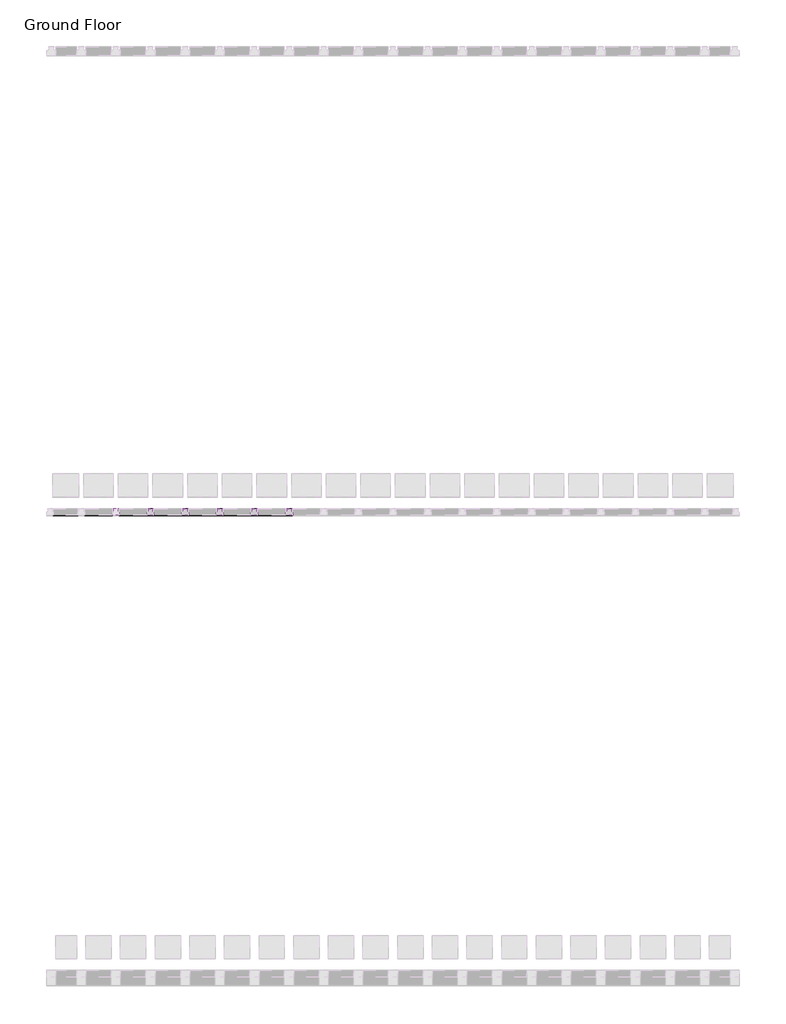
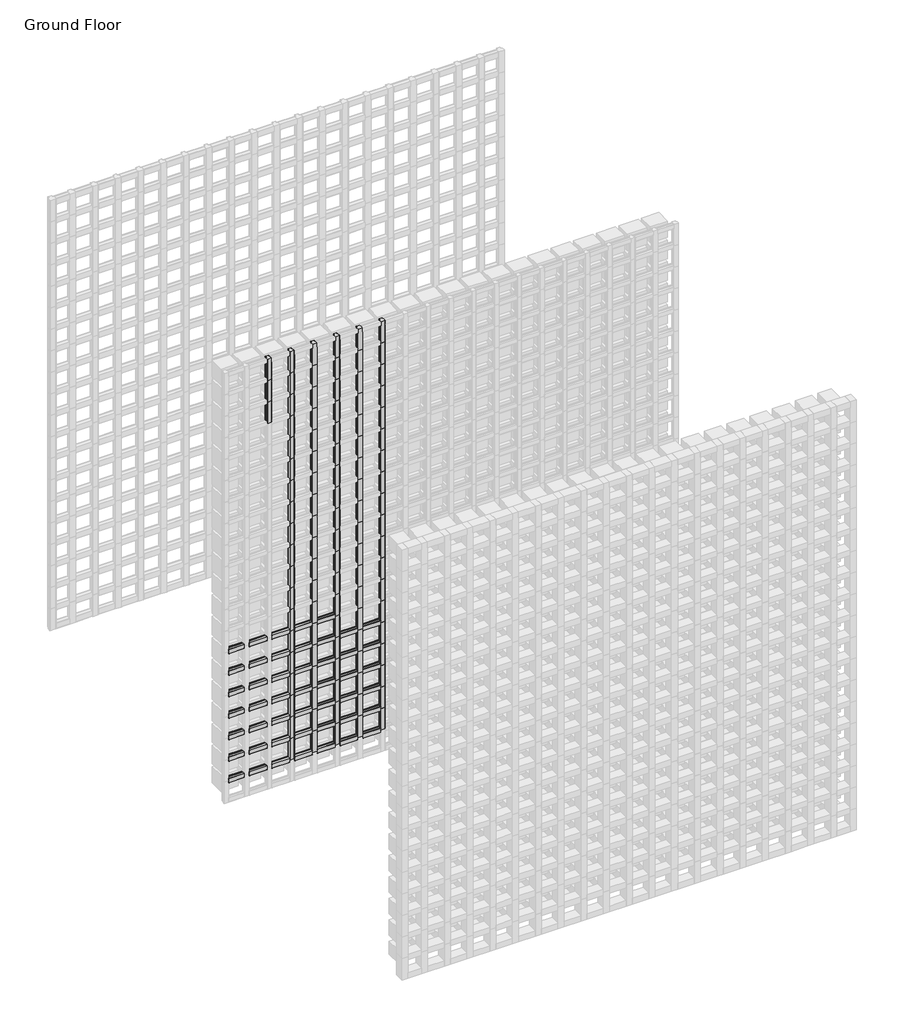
# One storey, part 87 of 350: 145 members.
"""IFC4 building model written with IfcOpenShell, lengths in millimetres."""

from ifc_helpers import new_model, si_unit, origin, place, context, project, spatial, transform, mapped, element, save
from components import rectangular_mullion_f1976eb1, rectangular_mullion_e2bab149, rectangular_mullion_707a50c4

model = new_model("IFC4")

# Units and contexts
model_context = context("Model", 3, world=origin())
ifc_project = project(units=[si_unit("LENGTHUNIT", "METRE", prefix="MILLI")], contexts=[model_context])

# Site, building, storey
site = spatial("IfcSite", under=ifc_project)
building = spatial("IfcBuilding", under=site)
storey = spatial("IfcBuildingStorey", under=building, Name="Ground Floor", Elevation=0.0)

# Members
placement = place(None, origin())
rectangular_mullion_shape = rectangular_mullion_f1976eb1(model_context)
element("IfcMember", 1, ObjectType="Rectangular Mullion : Batten_Timber_Modinex_Austratus_Grid_Fin_30x30_AlaskanYellowCedar", at=placement, inside=storey, context=model_context, shape_type="MappedRepresentation", body=[
    mapped(rectangular_mullion_shape, transform((2216.4361642, 42968.2978302, 2550.0), x_axis=(1.0, 0.0, 0.0), y_axis=(0.0, -1.0, 0.0), z_axis=(0.0, 0.0, -1.0))),
])
element("IfcMember", 2, ObjectType="Rectangular Mullion : Batten_Timber_Modinex_Austratus_Grid_Fin_30x30_AlaskanYellowCedar", at=placement, inside=storey, context=model_context, shape_type="MappedRepresentation", body=[
    mapped(rectangular_mullion_shape, transform((2216.4361642, 42968.2978302, 2700.0), x_axis=(1.0, 0.0, 0.0), y_axis=(0.0, -1.0, 0.0), z_axis=(0.0, 0.0, -1.0))),
])
element("IfcMember", 3, ObjectType="Rectangular Mullion : Batten_Timber_Modinex_Austratus_Grid_Fin_30x30_AlaskanYellowCedar", at=placement, inside=storey, context=model_context, shape_type="MappedRepresentation", body=[
    mapped(rectangular_mullion_shape, transform((2366.4361642, 42968.2978302, 150.0), x_axis=(1.0, 0.0, 0.0), y_axis=(0.0, -1.0, 0.0), z_axis=(0.0, 0.0, -1.0))),
])
element("IfcMember", 4, ObjectType="Rectangular Mullion : Batten_Timber_Modinex_Austratus_Grid_Fin_30x30_AlaskanYellowCedar", at=placement, inside=storey, context=model_context, shape_type="MappedRepresentation", body=[
    mapped(rectangular_mullion_shape, transform((2366.4361642, 42968.2978302, 300.0), x_axis=(1.0, 0.0, 0.0), y_axis=(0.0, -1.0, 0.0), z_axis=(0.0, 0.0, -1.0))),
])
element("IfcMember", 5, ObjectType="Rectangular Mullion : Batten_Timber_Modinex_Austratus_Grid_Fin_30x30_AlaskanYellowCedar", at=placement, inside=storey, context=model_context, shape_type="MappedRepresentation", body=[
    mapped(rectangular_mullion_shape, transform((2366.4361642, 42968.2978302, 450.0), x_axis=(1.0, 0.0, 0.0), y_axis=(0.0, -1.0, 0.0), z_axis=(0.0, 0.0, -1.0))),
])
element("IfcMember", 6, ObjectType="Rectangular Mullion : Batten_Timber_Modinex_Austratus_Grid_Fin_30x30_AlaskanYellowCedar", at=placement, inside=storey, context=model_context, shape_type="MappedRepresentation", body=[
    mapped(rectangular_mullion_shape, transform((2366.4361642, 42968.2978302, 600.0), x_axis=(1.0, 0.0, 0.0), y_axis=(0.0, -1.0, 0.0), z_axis=(0.0, 0.0, -1.0))),
])
element("IfcMember", 7, ObjectType="Rectangular Mullion : Batten_Timber_Modinex_Austratus_Grid_Fin_30x30_AlaskanYellowCedar", at=placement, inside=storey, context=model_context, shape_type="MappedRepresentation", body=[
    mapped(rectangular_mullion_shape, transform((2366.4361642, 42968.2978302, 750.0), x_axis=(1.0, 0.0, 0.0), y_axis=(0.0, -1.0, 0.0), z_axis=(0.0, 0.0, -1.0))),
])
element("IfcMember", 8, ObjectType="Rectangular Mullion : Batten_Timber_Modinex_Austratus_Grid_Fin_30x30_AlaskanYellowCedar", at=placement, inside=storey, context=model_context, shape_type="MappedRepresentation", body=[
    mapped(rectangular_mullion_shape, transform((2366.4361642, 42968.2978302, 900.0), x_axis=(1.0, 0.0, 0.0), y_axis=(0.0, -1.0, 0.0), z_axis=(0.0, 0.0, -1.0))),
])
element("IfcMember", 9, ObjectType="Rectangular Mullion : Batten_Timber_Modinex_Austratus_Grid_Fin_30x30_AlaskanYellowCedar", at=placement, inside=storey, context=model_context, shape_type="MappedRepresentation", body=[
    mapped(rectangular_mullion_shape, transform((2366.4361642, 42968.2978302, 1050.0), x_axis=(1.0, 0.0, 0.0), y_axis=(0.0, -1.0, 0.0), z_axis=(0.0, 0.0, -1.0))),
])
element("IfcMember", 10, ObjectType="Rectangular Mullion : Batten_Timber_Modinex_Austratus_Grid_Fin_30x30_AlaskanYellowCedar", at=placement, inside=storey, context=model_context, shape_type="MappedRepresentation", body=[
    mapped(rectangular_mullion_shape, transform((2366.4361642, 42968.2978302, 1200.0), x_axis=(1.0, 0.0, 0.0), y_axis=(0.0, -1.0, 0.0), z_axis=(0.0, 0.0, -1.0))),
])
element("IfcMember", 11, ObjectType="Rectangular Mullion : Batten_Timber_Modinex_Austratus_Grid_Fin_30x30_AlaskanYellowCedar", at=placement, inside=storey, context=model_context, shape_type="MappedRepresentation", body=[
    mapped(rectangular_mullion_shape, transform((2366.4361642, 42968.2978302, 1350.0), x_axis=(1.0, 0.0, 0.0), y_axis=(0.0, -1.0, 0.0), z_axis=(0.0, 0.0, -1.0))),
])
element("IfcMember", 12, ObjectType="Rectangular Mullion : Batten_Timber_Modinex_Austratus_Grid_Fin_30x30_AlaskanYellowCedar", at=placement, inside=storey, context=model_context, shape_type="MappedRepresentation", body=[
    mapped(rectangular_mullion_shape, transform((2366.4361642, 42968.2978302, 1500.0), x_axis=(1.0, 0.0, 0.0), y_axis=(0.0, -1.0, 0.0), z_axis=(0.0, 0.0, -1.0))),
])
element("IfcMember", 13, ObjectType="Rectangular Mullion : Batten_Timber_Modinex_Austratus_Grid_Fin_30x30_AlaskanYellowCedar", at=placement, inside=storey, context=model_context, shape_type="MappedRepresentation", body=[
    mapped(rectangular_mullion_shape, transform((2366.4361642, 42968.2978302, 1650.0), x_axis=(1.0, 0.0, 0.0), y_axis=(0.0, -1.0, 0.0), z_axis=(0.0, 0.0, -1.0))),
])
element("IfcMember", 14, ObjectType="Rectangular Mullion : Batten_Timber_Modinex_Austratus_Grid_Fin_30x30_AlaskanYellowCedar", at=placement, inside=storey, context=model_context, shape_type="MappedRepresentation", body=[
    mapped(rectangular_mullion_shape, transform((2366.4361642, 42968.2978302, 1800.0), x_axis=(1.0, 0.0, 0.0), y_axis=(0.0, -1.0, 0.0), z_axis=(0.0, 0.0, -1.0))),
])
element("IfcMember", 15, ObjectType="Rectangular Mullion : Batten_Timber_Modinex_Austratus_Grid_Fin_30x30_AlaskanYellowCedar", at=placement, inside=storey, context=model_context, shape_type="MappedRepresentation", body=[
    mapped(rectangular_mullion_shape, transform((2366.4361642, 42968.2978302, 1950.0), x_axis=(1.0, 0.0, 0.0), y_axis=(0.0, -1.0, 0.0), z_axis=(0.0, 0.0, -1.0))),
])
element("IfcMember", 16, ObjectType="Rectangular Mullion : Batten_Timber_Modinex_Austratus_Grid_Fin_30x30_AlaskanYellowCedar", at=placement, inside=storey, context=model_context, shape_type="MappedRepresentation", body=[
    mapped(rectangular_mullion_shape, transform((2366.4361642, 42968.2978302, 2100.0), x_axis=(1.0, 0.0, 0.0), y_axis=(0.0, -1.0, 0.0), z_axis=(0.0, 0.0, -1.0))),
])
element("IfcMember", 17, ObjectType="Rectangular Mullion : Batten_Timber_Modinex_Austratus_Grid_Fin_30x30_AlaskanYellowCedar", at=placement, inside=storey, context=model_context, shape_type="MappedRepresentation", body=[
    mapped(rectangular_mullion_shape, transform((2366.4361642, 42968.2978302, 2250.0), x_axis=(1.0, 0.0, 0.0), y_axis=(0.0, -1.0, 0.0), z_axis=(0.0, 0.0, -1.0))),
])
element("IfcMember", 18, ObjectType="Rectangular Mullion : Batten_Timber_Modinex_Austratus_Grid_Fin_30x30_AlaskanYellowCedar", at=placement, inside=storey, context=model_context, shape_type="MappedRepresentation", body=[
    mapped(rectangular_mullion_shape, transform((2366.4361642, 42968.2978302, 2400.0), x_axis=(1.0, 0.0, 0.0), y_axis=(0.0, -1.0, 0.0), z_axis=(0.0, 0.0, -1.0))),
])
element("IfcMember", 19, ObjectType="Rectangular Mullion : Batten_Timber_Modinex_Austratus_Grid_Fin_30x30_AlaskanYellowCedar", at=placement, inside=storey, context=model_context, shape_type="MappedRepresentation", body=[
    mapped(rectangular_mullion_shape, transform((2366.4361642, 42968.2978302, 2550.0), x_axis=(1.0, 0.0, 0.0), y_axis=(0.0, -1.0, 0.0), z_axis=(0.0, 0.0, -1.0))),
])
element("IfcMember", 20, ObjectType="Rectangular Mullion : Batten_Timber_Modinex_Austratus_Grid_Fin_30x30_AlaskanYellowCedar", at=placement, inside=storey, context=model_context, shape_type="MappedRepresentation", body=[
    mapped(rectangular_mullion_shape, transform((2366.4361642, 42968.2978302, 2700.0), x_axis=(1.0, 0.0, 0.0), y_axis=(0.0, -1.0, 0.0), z_axis=(0.0, 0.0, -1.0))),
])
element("IfcMember", 21, ObjectType="Rectangular Mullion : Batten_Timber_Modinex_Austratus_Grid_Fin_30x30_AlaskanYellowCedar", at=placement, inside=storey, context=model_context, shape_type="MappedRepresentation", body=[
    mapped(rectangular_mullion_shape, transform((2516.4361642, 42968.2978302, 150.0), x_axis=(1.0, 0.0, 0.0), y_axis=(0.0, -1.0, 0.0), z_axis=(0.0, 0.0, -1.0))),
])
element("IfcMember", 22, ObjectType="Rectangular Mullion : Batten_Timber_Modinex_Austratus_Grid_Fin_30x30_AlaskanYellowCedar", at=placement, inside=storey, context=model_context, shape_type="MappedRepresentation", body=[
    mapped(rectangular_mullion_shape, transform((2516.4361642, 42968.2978302, 300.0), x_axis=(1.0, 0.0, 0.0), y_axis=(0.0, -1.0, 0.0), z_axis=(0.0, 0.0, -1.0))),
])
element("IfcMember", 23, ObjectType="Rectangular Mullion : Batten_Timber_Modinex_Austratus_Grid_Fin_30x30_AlaskanYellowCedar", at=placement, inside=storey, context=model_context, shape_type="MappedRepresentation", body=[
    mapped(rectangular_mullion_shape, transform((2516.4361642, 42968.2978302, 450.0), x_axis=(1.0, 0.0, 0.0), y_axis=(0.0, -1.0, 0.0), z_axis=(0.0, 0.0, -1.0))),
])
element("IfcMember", 24, ObjectType="Rectangular Mullion : Batten_Timber_Modinex_Austratus_Grid_Fin_30x30_AlaskanYellowCedar", at=placement, inside=storey, context=model_context, shape_type="MappedRepresentation", body=[
    mapped(rectangular_mullion_shape, transform((2516.4361642, 42968.2978302, 600.0), x_axis=(1.0, 0.0, 0.0), y_axis=(0.0, -1.0, 0.0), z_axis=(0.0, 0.0, -1.0))),
])
element("IfcMember", 25, ObjectType="Rectangular Mullion : Batten_Timber_Modinex_Austratus_Grid_Fin_30x30_AlaskanYellowCedar", at=placement, inside=storey, context=model_context, shape_type="MappedRepresentation", body=[
    mapped(rectangular_mullion_shape, transform((2516.4361642, 42968.2978302, 750.0), x_axis=(1.0, 0.0, 0.0), y_axis=(0.0, -1.0, 0.0), z_axis=(0.0, 0.0, -1.0))),
])
element("IfcMember", 26, ObjectType="Rectangular Mullion : Batten_Timber_Modinex_Austratus_Grid_Fin_30x30_AlaskanYellowCedar", at=placement, inside=storey, context=model_context, shape_type="MappedRepresentation", body=[
    mapped(rectangular_mullion_shape, transform((2516.4361642, 42968.2978302, 900.0), x_axis=(1.0, 0.0, 0.0), y_axis=(0.0, -1.0, 0.0), z_axis=(0.0, 0.0, -1.0))),
])
element("IfcMember", 27, ObjectType="Rectangular Mullion : Batten_Timber_Modinex_Austratus_Grid_Fin_30x30_AlaskanYellowCedar", at=placement, inside=storey, context=model_context, shape_type="MappedRepresentation", body=[
    mapped(rectangular_mullion_shape, transform((2516.4361642, 42968.2978302, 1050.0), x_axis=(1.0, 0.0, 0.0), y_axis=(0.0, -1.0, 0.0), z_axis=(0.0, 0.0, -1.0))),
])
element("IfcMember", 28, ObjectType="Rectangular Mullion : Batten_Timber_Modinex_Austratus_Grid_Fin_30x30_AlaskanYellowCedar", at=placement, inside=storey, context=model_context, shape_type="MappedRepresentation", body=[
    mapped(rectangular_mullion_shape, transform((2516.4361642, 42968.2978302, 1200.0), x_axis=(1.0, 0.0, 0.0), y_axis=(0.0, -1.0, 0.0), z_axis=(0.0, 0.0, -1.0))),
])
element("IfcMember", 29, ObjectType="Rectangular Mullion : Batten_Timber_Modinex_Austratus_Grid_Fin_30x30_AlaskanYellowCedar", at=placement, inside=storey, context=model_context, shape_type="MappedRepresentation", body=[
    mapped(rectangular_mullion_shape, transform((2516.4361642, 42968.2978302, 1350.0), x_axis=(1.0, 0.0, 0.0), y_axis=(0.0, -1.0, 0.0), z_axis=(0.0, 0.0, -1.0))),
])
element("IfcMember", 30, ObjectType="Rectangular Mullion : Batten_Timber_Modinex_Austratus_Grid_Fin_30x30_AlaskanYellowCedar", at=placement, inside=storey, context=model_context, shape_type="MappedRepresentation", body=[
    mapped(rectangular_mullion_shape, transform((2516.4361642, 42968.2978302, 1500.0), x_axis=(1.0, 0.0, 0.0), y_axis=(0.0, -1.0, 0.0), z_axis=(0.0, 0.0, -1.0))),
])
element("IfcMember", 31, ObjectType="Rectangular Mullion : Batten_Timber_Modinex_Austratus_Grid_Fin_30x30_AlaskanYellowCedar", at=placement, inside=storey, context=model_context, shape_type="MappedRepresentation", body=[
    mapped(rectangular_mullion_shape, transform((2516.4361642, 42968.2978302, 1650.0), x_axis=(1.0, 0.0, 0.0), y_axis=(0.0, -1.0, 0.0), z_axis=(0.0, 0.0, -1.0))),
])
element("IfcMember", 32, ObjectType="Rectangular Mullion : Batten_Timber_Modinex_Austratus_Grid_Fin_30x30_AlaskanYellowCedar", at=placement, inside=storey, context=model_context, shape_type="MappedRepresentation", body=[
    mapped(rectangular_mullion_shape, transform((2516.4361642, 42968.2978302, 1800.0), x_axis=(1.0, 0.0, 0.0), y_axis=(0.0, -1.0, 0.0), z_axis=(0.0, 0.0, -1.0))),
])
element("IfcMember", 33, ObjectType="Rectangular Mullion : Batten_Timber_Modinex_Austratus_Grid_Fin_30x30_AlaskanYellowCedar", at=placement, inside=storey, context=model_context, shape_type="MappedRepresentation", body=[
    mapped(rectangular_mullion_shape, transform((2516.4361642, 42968.2978302, 1950.0), x_axis=(1.0, 0.0, 0.0), y_axis=(0.0, -1.0, 0.0), z_axis=(0.0, 0.0, -1.0))),
])
element("IfcMember", 34, ObjectType="Rectangular Mullion : Batten_Timber_Modinex_Austratus_Grid_Fin_30x30_AlaskanYellowCedar", at=placement, inside=storey, context=model_context, shape_type="MappedRepresentation", body=[
    mapped(rectangular_mullion_shape, transform((2516.4361642, 42968.2978302, 2100.0), x_axis=(1.0, 0.0, 0.0), y_axis=(0.0, -1.0, 0.0), z_axis=(0.0, 0.0, -1.0))),
])
element("IfcMember", 35, ObjectType="Rectangular Mullion : Batten_Timber_Modinex_Austratus_Grid_Fin_30x30_AlaskanYellowCedar", at=placement, inside=storey, context=model_context, shape_type="MappedRepresentation", body=[
    mapped(rectangular_mullion_shape, transform((2516.4361642, 42968.2978302, 2250.0), x_axis=(1.0, 0.0, 0.0), y_axis=(0.0, -1.0, 0.0), z_axis=(0.0, 0.0, -1.0))),
])
element("IfcMember", 36, ObjectType="Rectangular Mullion : Batten_Timber_Modinex_Austratus_Grid_Fin_30x30_AlaskanYellowCedar", at=placement, inside=storey, context=model_context, shape_type="MappedRepresentation", body=[
    mapped(rectangular_mullion_shape, transform((2516.4361642, 42968.2978302, 2400.0), x_axis=(1.0, 0.0, 0.0), y_axis=(0.0, -1.0, 0.0), z_axis=(0.0, 0.0, -1.0))),
])
element("IfcMember", 37, ObjectType="Rectangular Mullion : Batten_Timber_Modinex_Austratus_Grid_Fin_30x30_AlaskanYellowCedar", at=placement, inside=storey, context=model_context, shape_type="MappedRepresentation", body=[
    mapped(rectangular_mullion_shape, transform((2516.4361642, 42968.2978302, 2550.0), x_axis=(1.0, 0.0, 0.0), y_axis=(0.0, -1.0, 0.0), z_axis=(0.0, 0.0, -1.0))),
])
element("IfcMember", 38, ObjectType="Rectangular Mullion : Batten_Timber_Modinex_Austratus_Grid_Fin_30x30_AlaskanYellowCedar", at=placement, inside=storey, context=model_context, shape_type="MappedRepresentation", body=[
    mapped(rectangular_mullion_shape, transform((2516.4361642, 42968.2978302, 2700.0), x_axis=(1.0, 0.0, 0.0), y_axis=(0.0, -1.0, 0.0), z_axis=(0.0, 0.0, -1.0))),
])
element("IfcMember", 39, ObjectType="Rectangular Mullion : Batten_Timber_Modinex_Austratus_Grid_Fin_30x30_AlaskanYellowCedar", at=placement, inside=storey, context=model_context, shape_type="MappedRepresentation", body=[
    mapped(rectangular_mullion_shape, transform((2666.4361642, 42968.2978302, 150.0), x_axis=(1.0, 0.0, 0.0), y_axis=(0.0, -1.0, 0.0), z_axis=(0.0, 0.0, -1.0))),
])
element("IfcMember", 40, ObjectType="Rectangular Mullion : Batten_Timber_Modinex_Austratus_Grid_Fin_30x30_AlaskanYellowCedar", at=placement, inside=storey, context=model_context, shape_type="MappedRepresentation", body=[
    mapped(rectangular_mullion_shape, transform((2666.4361642, 42968.2978302, 300.0), x_axis=(1.0, 0.0, 0.0), y_axis=(0.0, -1.0, 0.0), z_axis=(0.0, 0.0, -1.0))),
])
element("IfcMember", 41, ObjectType="Rectangular Mullion : Batten_Timber_Modinex_Austratus_Grid_Fin_30x30_AlaskanYellowCedar", at=placement, inside=storey, context=model_context, shape_type="MappedRepresentation", body=[
    mapped(rectangular_mullion_shape, transform((2666.4361642, 42968.2978302, 450.0), x_axis=(1.0, 0.0, 0.0), y_axis=(0.0, -1.0, 0.0), z_axis=(0.0, 0.0, -1.0))),
])
element("IfcMember", 42, ObjectType="Rectangular Mullion : Batten_Timber_Modinex_Austratus_Grid_Fin_30x30_AlaskanYellowCedar", at=placement, inside=storey, context=model_context, shape_type="MappedRepresentation", body=[
    mapped(rectangular_mullion_shape, transform((2666.4361642, 42968.2978302, 600.0), x_axis=(1.0, 0.0, 0.0), y_axis=(0.0, -1.0, 0.0), z_axis=(0.0, 0.0, -1.0))),
])
element("IfcMember", 43, ObjectType="Rectangular Mullion : Batten_Timber_Modinex_Austratus_Grid_Fin_30x30_AlaskanYellowCedar", at=placement, inside=storey, context=model_context, shape_type="MappedRepresentation", body=[
    mapped(rectangular_mullion_shape, transform((2666.4361642, 42968.2978302, 750.0), x_axis=(1.0, 0.0, 0.0), y_axis=(0.0, -1.0, 0.0), z_axis=(0.0, 0.0, -1.0))),
])
element("IfcMember", 44, ObjectType="Rectangular Mullion : Batten_Timber_Modinex_Austratus_Grid_Fin_30x30_AlaskanYellowCedar", at=placement, inside=storey, context=model_context, shape_type="MappedRepresentation", body=[
    mapped(rectangular_mullion_shape, transform((2666.4361642, 42968.2978302, 900.0), x_axis=(1.0, 0.0, 0.0), y_axis=(0.0, -1.0, 0.0), z_axis=(0.0, 0.0, -1.0))),
])
element("IfcMember", 45, ObjectType="Rectangular Mullion : Batten_Timber_Modinex_Austratus_Grid_Fin_30x30_AlaskanYellowCedar", at=placement, inside=storey, context=model_context, shape_type="MappedRepresentation", body=[
    mapped(rectangular_mullion_shape, transform((2666.4361642, 42968.2978302, 1050.0), x_axis=(1.0, 0.0, 0.0), y_axis=(0.0, -1.0, 0.0), z_axis=(0.0, 0.0, -1.0))),
])
element("IfcMember", 46, ObjectType="Rectangular Mullion : Batten_Timber_Modinex_Austratus_Grid_Fin_30x30_AlaskanYellowCedar", at=placement, inside=storey, context=model_context, shape_type="MappedRepresentation", body=[
    mapped(rectangular_mullion_shape, transform((2666.4361642, 42968.2978302, 1200.0), x_axis=(1.0, 0.0, 0.0), y_axis=(0.0, -1.0, 0.0), z_axis=(0.0, 0.0, -1.0))),
])
element("IfcMember", 47, ObjectType="Rectangular Mullion : Batten_Timber_Modinex_Austratus_Grid_Fin_30x30_AlaskanYellowCedar", at=placement, inside=storey, context=model_context, shape_type="MappedRepresentation", body=[
    mapped(rectangular_mullion_shape, transform((2666.4361642, 42968.2978302, 1350.0), x_axis=(1.0, 0.0, 0.0), y_axis=(0.0, -1.0, 0.0), z_axis=(0.0, 0.0, -1.0))),
])
element("IfcMember", 48, ObjectType="Rectangular Mullion : Batten_Timber_Modinex_Austratus_Grid_Fin_30x30_AlaskanYellowCedar", at=placement, inside=storey, context=model_context, shape_type="MappedRepresentation", body=[
    mapped(rectangular_mullion_shape, transform((2666.4361642, 42968.2978302, 1500.0), x_axis=(1.0, 0.0, 0.0), y_axis=(0.0, -1.0, 0.0), z_axis=(0.0, 0.0, -1.0))),
])
element("IfcMember", 49, ObjectType="Rectangular Mullion : Batten_Timber_Modinex_Austratus_Grid_Fin_30x30_AlaskanYellowCedar", at=placement, inside=storey, context=model_context, shape_type="MappedRepresentation", body=[
    mapped(rectangular_mullion_shape, transform((2666.4361642, 42968.2978302, 1650.0), x_axis=(1.0, 0.0, 0.0), y_axis=(0.0, -1.0, 0.0), z_axis=(0.0, 0.0, -1.0))),
])
element("IfcMember", 50, ObjectType="Rectangular Mullion : Batten_Timber_Modinex_Austratus_Grid_Fin_30x30_AlaskanYellowCedar", at=placement, inside=storey, context=model_context, shape_type="MappedRepresentation", body=[
    mapped(rectangular_mullion_shape, transform((2666.4361642, 42968.2978302, 1800.0), x_axis=(1.0, 0.0, 0.0), y_axis=(0.0, -1.0, 0.0), z_axis=(0.0, 0.0, -1.0))),
])
element("IfcMember", 51, ObjectType="Rectangular Mullion : Batten_Timber_Modinex_Austratus_Grid_Fin_30x30_AlaskanYellowCedar", at=placement, inside=storey, context=model_context, shape_type="MappedRepresentation", body=[
    mapped(rectangular_mullion_shape, transform((2666.4361642, 42968.2978302, 1950.0), x_axis=(1.0, 0.0, 0.0), y_axis=(0.0, -1.0, 0.0), z_axis=(0.0, 0.0, -1.0))),
])
element("IfcMember", 52, ObjectType="Rectangular Mullion : Batten_Timber_Modinex_Austratus_Grid_Fin_30x30_AlaskanYellowCedar", at=placement, inside=storey, context=model_context, shape_type="MappedRepresentation", body=[
    mapped(rectangular_mullion_shape, transform((2666.4361642, 42968.2978302, 2100.0), x_axis=(1.0, 0.0, 0.0), y_axis=(0.0, -1.0, 0.0), z_axis=(0.0, 0.0, -1.0))),
])
element("IfcMember", 53, ObjectType="Rectangular Mullion : Batten_Timber_Modinex_Austratus_Grid_Fin_30x30_AlaskanYellowCedar", at=placement, inside=storey, context=model_context, shape_type="MappedRepresentation", body=[
    mapped(rectangular_mullion_shape, transform((2666.4361642, 42968.2978302, 2250.0), x_axis=(1.0, 0.0, 0.0), y_axis=(0.0, -1.0, 0.0), z_axis=(0.0, 0.0, -1.0))),
])
element("IfcMember", 54, ObjectType="Rectangular Mullion : Batten_Timber_Modinex_Austratus_Grid_Fin_30x30_AlaskanYellowCedar", at=placement, inside=storey, context=model_context, shape_type="MappedRepresentation", body=[
    mapped(rectangular_mullion_shape, transform((2666.4361642, 42968.2978302, 2400.0), x_axis=(1.0, 0.0, 0.0), y_axis=(0.0, -1.0, 0.0), z_axis=(0.0, 0.0, -1.0))),
])
element("IfcMember", 55, ObjectType="Rectangular Mullion : Batten_Timber_Modinex_Austratus_Grid_Fin_30x30_AlaskanYellowCedar", at=placement, inside=storey, context=model_context, shape_type="MappedRepresentation", body=[
    mapped(rectangular_mullion_shape, transform((2666.4361642, 42968.2978302, 2550.0), x_axis=(1.0, 0.0, 0.0), y_axis=(0.0, -1.0, 0.0), z_axis=(0.0, 0.0, -1.0))),
])
element("IfcMember", 56, ObjectType="Rectangular Mullion : Batten_Timber_Modinex_Austratus_Grid_Fin_30x30_AlaskanYellowCedar", at=placement, inside=storey, context=model_context, shape_type="MappedRepresentation", body=[
    mapped(rectangular_mullion_shape, transform((2666.4361642, 42968.2978302, 2700.0), x_axis=(1.0, 0.0, 0.0), y_axis=(0.0, -1.0, 0.0), z_axis=(0.0, 0.0, -1.0))),
])
element("IfcMember", 57, ObjectType="Rectangular Mullion : Batten_Timber_Modinex_Austratus_Grid_Fin_30x30_AlaskanYellowCedar", at=placement, inside=storey, context=model_context, shape_type="MappedRepresentation", body=[
    mapped(rectangular_mullion_shape, transform((2816.4361642, 42968.2978302, 150.0), x_axis=(1.0, 0.0, 0.0), y_axis=(0.0, -1.0, 0.0), z_axis=(0.0, 0.0, -1.0))),
])
element("IfcMember", 58, ObjectType="Rectangular Mullion : Batten_Timber_Modinex_Austratus_Grid_Fin_30x30_AlaskanYellowCedar", at=placement, inside=storey, context=model_context, shape_type="MappedRepresentation", body=[
    mapped(rectangular_mullion_shape, transform((2816.4361642, 42968.2978302, 300.0), x_axis=(1.0, 0.0, 0.0), y_axis=(0.0, -1.0, 0.0), z_axis=(0.0, 0.0, -1.0))),
])
element("IfcMember", 59, ObjectType="Rectangular Mullion : Batten_Timber_Modinex_Austratus_Grid_Fin_30x30_AlaskanYellowCedar", at=placement, inside=storey, context=model_context, shape_type="MappedRepresentation", body=[
    mapped(rectangular_mullion_shape, transform((2816.4361642, 42968.2978302, 450.0), x_axis=(1.0, 0.0, 0.0), y_axis=(0.0, -1.0, 0.0), z_axis=(0.0, 0.0, -1.0))),
])
element("IfcMember", 60, ObjectType="Rectangular Mullion : Batten_Timber_Modinex_Austratus_Grid_Fin_30x30_AlaskanYellowCedar", at=placement, inside=storey, context=model_context, shape_type="MappedRepresentation", body=[
    mapped(rectangular_mullion_shape, transform((2816.4361642, 42968.2978302, 600.0), x_axis=(1.0, 0.0, 0.0), y_axis=(0.0, -1.0, 0.0), z_axis=(0.0, 0.0, -1.0))),
])
element("IfcMember", 61, ObjectType="Rectangular Mullion : Batten_Timber_Modinex_Austratus_Grid_Fin_30x30_AlaskanYellowCedar", at=placement, inside=storey, context=model_context, shape_type="MappedRepresentation", body=[
    mapped(rectangular_mullion_shape, transform((2816.4361642, 42968.2978302, 750.0), x_axis=(1.0, 0.0, 0.0), y_axis=(0.0, -1.0, 0.0), z_axis=(0.0, 0.0, -1.0))),
])
element("IfcMember", 62, ObjectType="Rectangular Mullion : Batten_Timber_Modinex_Austratus_Grid_Fin_30x30_AlaskanYellowCedar", at=placement, inside=storey, context=model_context, shape_type="MappedRepresentation", body=[
    mapped(rectangular_mullion_shape, transform((2816.4361642, 42968.2978302, 900.0), x_axis=(1.0, 0.0, 0.0), y_axis=(0.0, -1.0, 0.0), z_axis=(0.0, 0.0, -1.0))),
])
element("IfcMember", 63, ObjectType="Rectangular Mullion : Batten_Timber_Modinex_Austratus_Grid_Fin_30x30_AlaskanYellowCedar", at=placement, inside=storey, context=model_context, shape_type="MappedRepresentation", body=[
    mapped(rectangular_mullion_shape, transform((2816.4361642, 42968.2978302, 1050.0), x_axis=(1.0, 0.0, 0.0), y_axis=(0.0, -1.0, 0.0), z_axis=(0.0, 0.0, -1.0))),
])
element("IfcMember", 64, ObjectType="Rectangular Mullion : Batten_Timber_Modinex_Austratus_Grid_Fin_30x30_AlaskanYellowCedar", at=placement, inside=storey, context=model_context, shape_type="MappedRepresentation", body=[
    mapped(rectangular_mullion_shape, transform((2816.4361642, 42968.2978302, 1200.0), x_axis=(1.0, 0.0, 0.0), y_axis=(0.0, -1.0, 0.0), z_axis=(0.0, 0.0, -1.0))),
])
element("IfcMember", 65, ObjectType="Rectangular Mullion : Batten_Timber_Modinex_Austratus_Grid_Fin_30x30_AlaskanYellowCedar", at=placement, inside=storey, context=model_context, shape_type="MappedRepresentation", body=[
    mapped(rectangular_mullion_shape, transform((2816.4361642, 42968.2978302, 1350.0), x_axis=(1.0, 0.0, 0.0), y_axis=(0.0, -1.0, 0.0), z_axis=(0.0, 0.0, -1.0))),
])
element("IfcMember", 66, ObjectType="Rectangular Mullion : Batten_Timber_Modinex_Austratus_Grid_Fin_30x30_AlaskanYellowCedar", at=placement, inside=storey, context=model_context, shape_type="MappedRepresentation", body=[
    mapped(rectangular_mullion_shape, transform((2816.4361642, 42968.2978302, 1500.0), x_axis=(1.0, 0.0, 0.0), y_axis=(0.0, -1.0, 0.0), z_axis=(0.0, 0.0, -1.0))),
])
element("IfcMember", 67, ObjectType="Rectangular Mullion : Batten_Timber_Modinex_Austratus_Grid_Fin_30x30_AlaskanYellowCedar", at=placement, inside=storey, context=model_context, shape_type="MappedRepresentation", body=[
    mapped(rectangular_mullion_shape, transform((2816.4361642, 42968.2978302, 1650.0), x_axis=(1.0, 0.0, 0.0), y_axis=(0.0, -1.0, 0.0), z_axis=(0.0, 0.0, -1.0))),
])
element("IfcMember", 68, ObjectType="Rectangular Mullion : Batten_Timber_Modinex_Austratus_Grid_Fin_30x30_AlaskanYellowCedar", at=placement, inside=storey, context=model_context, shape_type="MappedRepresentation", body=[
    mapped(rectangular_mullion_shape, transform((2816.4361642, 42968.2978302, 1800.0), x_axis=(1.0, 0.0, 0.0), y_axis=(0.0, -1.0, 0.0), z_axis=(0.0, 0.0, -1.0))),
])
element("IfcMember", 69, ObjectType="Rectangular Mullion : Batten_Timber_Modinex_Austratus_Grid_Fin_30x30_AlaskanYellowCedar", at=placement, inside=storey, context=model_context, shape_type="MappedRepresentation", body=[
    mapped(rectangular_mullion_shape, transform((2816.4361642, 42968.2978302, 1950.0), x_axis=(1.0, 0.0, 0.0), y_axis=(0.0, -1.0, 0.0), z_axis=(0.0, 0.0, -1.0))),
])
element("IfcMember", 70, ObjectType="Rectangular Mullion : Batten_Timber_Modinex_Austratus_Grid_Fin_30x30_AlaskanYellowCedar", at=placement, inside=storey, context=model_context, shape_type="MappedRepresentation", body=[
    mapped(rectangular_mullion_shape, transform((2816.4361642, 42968.2978302, 2100.0), x_axis=(1.0, 0.0, 0.0), y_axis=(0.0, -1.0, 0.0), z_axis=(0.0, 0.0, -1.0))),
])
element("IfcMember", 71, ObjectType="Rectangular Mullion : Batten_Timber_Modinex_Austratus_Grid_Fin_30x30_AlaskanYellowCedar", at=placement, inside=storey, context=model_context, shape_type="MappedRepresentation", body=[
    mapped(rectangular_mullion_shape, transform((2816.4361642, 42968.2978302, 2250.0), x_axis=(1.0, 0.0, 0.0), y_axis=(0.0, -1.0, 0.0), z_axis=(0.0, 0.0, -1.0))),
])
element("IfcMember", 72, ObjectType="Rectangular Mullion : Batten_Timber_Modinex_Austratus_Grid_Fin_30x30_AlaskanYellowCedar", at=placement, inside=storey, context=model_context, shape_type="MappedRepresentation", body=[
    mapped(rectangular_mullion_shape, transform((2816.4361642, 42968.2978302, 2400.0), x_axis=(1.0, 0.0, 0.0), y_axis=(0.0, -1.0, 0.0), z_axis=(0.0, 0.0, -1.0))),
])
element("IfcMember", 73, ObjectType="Rectangular Mullion : Batten_Timber_Modinex_Austratus_Grid_Fin_30x30_AlaskanYellowCedar", at=placement, inside=storey, context=model_context, shape_type="MappedRepresentation", body=[
    mapped(rectangular_mullion_shape, transform((2816.4361642, 42968.2978302, 2550.0), x_axis=(1.0, 0.0, 0.0), y_axis=(0.0, -1.0, 0.0), z_axis=(0.0, 0.0, -1.0))),
])
element("IfcMember", 74, ObjectType="Rectangular Mullion : Batten_Timber_Modinex_Austratus_Grid_Fin_30x30_AlaskanYellowCedar", at=placement, inside=storey, context=model_context, shape_type="MappedRepresentation", body=[
    mapped(rectangular_mullion_shape, transform((2816.4361642, 42968.2978302, 2700.0), x_axis=(1.0, 0.0, 0.0), y_axis=(0.0, -1.0, 0.0), z_axis=(0.0, 0.0, -1.0))),
])
element("IfcMember", 75, ObjectType="Rectangular Mullion : Batten_Timber_Modinex_Austratus_Grid_Fin_30x30_AlaskanYellowCedar", at=placement, inside=storey, context=model_context, shape_type="MappedRepresentation", body=[
    mapped(rectangular_mullion_shape, transform((2966.4361642, 42968.2978302, 150.0), x_axis=(1.0, 0.0, 0.0), y_axis=(0.0, -1.0, 0.0), z_axis=(0.0, 0.0, -1.0))),
])
element("IfcMember", 76, ObjectType="Rectangular Mullion : Batten_Timber_Modinex_Austratus_Grid_Fin_30x30_AlaskanYellowCedar", at=placement, inside=storey, context=model_context, shape_type="MappedRepresentation", body=[
    mapped(rectangular_mullion_shape, transform((2966.4361642, 42968.2978302, 300.0), x_axis=(1.0, 0.0, 0.0), y_axis=(0.0, -1.0, 0.0), z_axis=(0.0, 0.0, -1.0))),
])
element("IfcMember", 77, ObjectType="Rectangular Mullion : Batten_Timber_Modinex_Austratus_Grid_Fin_30x30_AlaskanYellowCedar", at=placement, inside=storey, context=model_context, shape_type="MappedRepresentation", body=[
    mapped(rectangular_mullion_shape, transform((2966.4361642, 42968.2978302, 450.0), x_axis=(1.0, 0.0, 0.0), y_axis=(0.0, -1.0, 0.0), z_axis=(0.0, 0.0, -1.0))),
])
element("IfcMember", 78, ObjectType="Rectangular Mullion : Batten_Timber_Modinex_Austratus_Grid_Fin_30x30_AlaskanYellowCedar", at=placement, inside=storey, context=model_context, shape_type="MappedRepresentation", body=[
    mapped(rectangular_mullion_shape, transform((2966.4361642, 42968.2978302, 600.0), x_axis=(1.0, 0.0, 0.0), y_axis=(0.0, -1.0, 0.0), z_axis=(0.0, 0.0, -1.0))),
])
element("IfcMember", 79, ObjectType="Rectangular Mullion : Batten_Timber_Modinex_Austratus_Grid_Fin_30x30_AlaskanYellowCedar", at=placement, inside=storey, context=model_context, shape_type="MappedRepresentation", body=[
    mapped(rectangular_mullion_shape, transform((2966.4361642, 42968.2978302, 750.0), x_axis=(1.0, 0.0, 0.0), y_axis=(0.0, -1.0, 0.0), z_axis=(0.0, 0.0, -1.0))),
])
element("IfcMember", 80, ObjectType="Rectangular Mullion : Batten_Timber_Modinex_Austratus_Grid_Fin_30x30_AlaskanYellowCedar", at=placement, inside=storey, context=model_context, shape_type="MappedRepresentation", body=[
    mapped(rectangular_mullion_shape, transform((2966.4361642, 42968.2978302, 900.0), x_axis=(1.0, 0.0, 0.0), y_axis=(0.0, -1.0, 0.0), z_axis=(0.0, 0.0, -1.0))),
])
element("IfcMember", 81, ObjectType="Rectangular Mullion : Batten_Timber_Modinex_Austratus_Grid_Fin_30x30_AlaskanYellowCedar", at=placement, inside=storey, context=model_context, shape_type="MappedRepresentation", body=[
    mapped(rectangular_mullion_shape, transform((2966.4361642, 42968.2978302, 1050.0), x_axis=(1.0, 0.0, 0.0), y_axis=(0.0, -1.0, 0.0), z_axis=(0.0, 0.0, -1.0))),
])
element("IfcMember", 82, ObjectType="Rectangular Mullion : Batten_Timber_Modinex_Austratus_Grid_Fin_30x30_AlaskanYellowCedar", at=placement, inside=storey, context=model_context, shape_type="MappedRepresentation", body=[
    mapped(rectangular_mullion_shape, transform((2966.4361642, 42968.2978302, 1200.0), x_axis=(1.0, 0.0, 0.0), y_axis=(0.0, -1.0, 0.0), z_axis=(0.0, 0.0, -1.0))),
])
element("IfcMember", 83, ObjectType="Rectangular Mullion : Batten_Timber_Modinex_Austratus_Grid_Fin_30x30_AlaskanYellowCedar", at=placement, inside=storey, context=model_context, shape_type="MappedRepresentation", body=[
    mapped(rectangular_mullion_shape, transform((2966.4361642, 42968.2978302, 1350.0), x_axis=(1.0, 0.0, 0.0), y_axis=(0.0, -1.0, 0.0), z_axis=(0.0, 0.0, -1.0))),
])
element("IfcMember", 84, ObjectType="Rectangular Mullion : Batten_Timber_Modinex_Austratus_Grid_Fin_30x30_AlaskanYellowCedar", at=placement, inside=storey, context=model_context, shape_type="MappedRepresentation", body=[
    mapped(rectangular_mullion_shape, transform((2966.4361642, 42968.2978302, 1500.0), x_axis=(1.0, 0.0, 0.0), y_axis=(0.0, -1.0, 0.0), z_axis=(0.0, 0.0, -1.0))),
])
element("IfcMember", 85, ObjectType="Rectangular Mullion : Batten_Timber_Modinex_Austratus_Grid_Fin_30x30_AlaskanYellowCedar", at=placement, inside=storey, context=model_context, shape_type="MappedRepresentation", body=[
    mapped(rectangular_mullion_shape, transform((2966.4361642, 42968.2978302, 1650.0), x_axis=(1.0, 0.0, 0.0), y_axis=(0.0, -1.0, 0.0), z_axis=(0.0, 0.0, -1.0))),
])
element("IfcMember", 86, ObjectType="Rectangular Mullion : Batten_Timber_Modinex_Austratus_Grid_Fin_30x30_AlaskanYellowCedar", at=placement, inside=storey, context=model_context, shape_type="MappedRepresentation", body=[
    mapped(rectangular_mullion_shape, transform((2966.4361642, 42968.2978302, 1800.0), x_axis=(1.0, 0.0, 0.0), y_axis=(0.0, -1.0, 0.0), z_axis=(0.0, 0.0, -1.0))),
])
element("IfcMember", 87, ObjectType="Rectangular Mullion : Batten_Timber_Modinex_Austratus_Grid_Fin_30x30_AlaskanYellowCedar", at=placement, inside=storey, context=model_context, shape_type="MappedRepresentation", body=[
    mapped(rectangular_mullion_shape, transform((2966.4361642, 42968.2978302, 1950.0), x_axis=(1.0, 0.0, 0.0), y_axis=(0.0, -1.0, 0.0), z_axis=(0.0, 0.0, -1.0))),
])
element("IfcMember", 88, ObjectType="Rectangular Mullion : Batten_Timber_Modinex_Austratus_Grid_Fin_30x30_AlaskanYellowCedar", at=placement, inside=storey, context=model_context, shape_type="MappedRepresentation", body=[
    mapped(rectangular_mullion_shape, transform((2966.4361642, 42968.2978302, 2100.0), x_axis=(1.0, 0.0, 0.0), y_axis=(0.0, -1.0, 0.0), z_axis=(0.0, 0.0, -1.0))),
])
element("IfcMember", 89, ObjectType="Rectangular Mullion : Batten_Timber_Modinex_Austratus_Grid_Fin_30x30_AlaskanYellowCedar", at=placement, inside=storey, context=model_context, shape_type="MappedRepresentation", body=[
    mapped(rectangular_mullion_shape, transform((2966.4361642, 42968.2978302, 2250.0), x_axis=(1.0, 0.0, 0.0), y_axis=(0.0, -1.0, 0.0), z_axis=(0.0, 0.0, -1.0))),
])
element("IfcMember", 90, ObjectType="Rectangular Mullion : Batten_Timber_Modinex_Austratus_Grid_Fin_30x30_AlaskanYellowCedar", at=placement, inside=storey, context=model_context, shape_type="MappedRepresentation", body=[
    mapped(rectangular_mullion_shape, transform((2966.4361642, 42968.2978302, 2400.0), x_axis=(1.0, 0.0, 0.0), y_axis=(0.0, -1.0, 0.0), z_axis=(0.0, 0.0, -1.0))),
])
element("IfcMember", 91, ObjectType="Rectangular Mullion : Batten_Timber_Modinex_Austratus_Grid_Fin_30x30_AlaskanYellowCedar", at=placement, inside=storey, context=model_context, shape_type="MappedRepresentation", body=[
    mapped(rectangular_mullion_shape, transform((2966.4361642, 42968.2978302, 2550.0), x_axis=(1.0, 0.0, 0.0), y_axis=(0.0, -1.0, 0.0), z_axis=(0.0, 0.0, -1.0))),
])
element("IfcMember", 92, ObjectType="Rectangular Mullion : Batten_Timber_Modinex_Austratus_Grid_Fin_30x30_AlaskanYellowCedar", at=placement, inside=storey, context=model_context, shape_type="MappedRepresentation", body=[
    mapped(rectangular_mullion_shape, transform((2966.4361642, 42968.2978302, 2700.0), x_axis=(1.0, 0.0, 0.0), y_axis=(0.0, -1.0, 0.0), z_axis=(0.0, 0.0, -1.0))),
])
element("IfcMember", 93, ObjectType="Rectangular Mullion : Batten_Timber_Modinex_Austratus_Grid_Fin_30x30_AlaskanYellowCedar", at=placement, inside=storey, context=model_context, shape_type="MappedRepresentation", body=[
    mapped(rectangular_mullion_shape, transform((2216.4361642, 42968.2978302, 2850.0), x_axis=(1.0, 0.0, 0.0), y_axis=(0.0, -1.0, 0.0), z_axis=(0.0, 0.0, -1.0))),
])
element("IfcMember", 94, ObjectType="Rectangular Mullion : Batten_Timber_Modinex_Austratus_Grid_Fin_30x30_AlaskanYellowCedar", at=placement, inside=storey, context=model_context, shape_type="MappedRepresentation", body=[
    mapped(rectangular_mullion_shape, transform((2366.4361642, 42968.2978302, 2850.0), x_axis=(1.0, 0.0, 0.0), y_axis=(0.0, -1.0, 0.0), z_axis=(0.0, 0.0, -1.0))),
])
element("IfcMember", 95, ObjectType="Rectangular Mullion : Batten_Timber_Modinex_Austratus_Grid_Fin_30x30_AlaskanYellowCedar", at=placement, inside=storey, context=model_context, shape_type="MappedRepresentation", body=[
    mapped(rectangular_mullion_shape, transform((2516.4361642, 42968.2978302, 2850.0), x_axis=(1.0, 0.0, 0.0), y_axis=(0.0, -1.0, 0.0), z_axis=(0.0, 0.0, -1.0))),
])
element("IfcMember", 96, ObjectType="Rectangular Mullion : Batten_Timber_Modinex_Austratus_Grid_Fin_30x30_AlaskanYellowCedar", at=placement, inside=storey, context=model_context, shape_type="MappedRepresentation", body=[
    mapped(rectangular_mullion_shape, transform((2666.4361642, 42968.2978302, 2850.0), x_axis=(1.0, 0.0, 0.0), y_axis=(0.0, -1.0, 0.0), z_axis=(0.0, 0.0, -1.0))),
])
element("IfcMember", 97, ObjectType="Rectangular Mullion : Batten_Timber_Modinex_Austratus_Grid_Fin_30x30_AlaskanYellowCedar", at=placement, inside=storey, context=model_context, shape_type="MappedRepresentation", body=[
    mapped(rectangular_mullion_shape, transform((2816.4361642, 42968.2978302, 2850.0), x_axis=(1.0, 0.0, 0.0), y_axis=(0.0, -1.0, 0.0), z_axis=(0.0, 0.0, -1.0))),
])
element("IfcMember", 98, ObjectType="Rectangular Mullion : Batten_Timber_Modinex_Austratus_Grid_Fin_30x30_AlaskanYellowCedar", at=placement, inside=storey, context=model_context, shape_type="MappedRepresentation", body=[
    mapped(rectangular_mullion_shape, transform((2966.4361642, 42968.2978302, 2850.0), x_axis=(1.0, 0.0, 0.0), y_axis=(0.0, -1.0, 0.0), z_axis=(0.0, 0.0, -1.0))),
])
rectangular_mullion_2_shape = rectangular_mullion_e2bab149(model_context)
element("IfcMember", 99, ObjectType="Rectangular Mullion : Batten_Timber_Modinex_Austratus_Grid_Fin_30x30_AlaskanYellowCedar", at=placement, inside=storey, context=model_context, shape_type="MappedRepresentation", body=[
    mapped(rectangular_mullion_2_shape, transform((2051.4361642, 42968.2978302, 150.0), x_axis=(0.0, 0.0, 1.0), y_axis=(0.0, -1.0, 0.0), z_axis=(1.0, 0.0, 0.0))),
])
element("IfcMember", 100, ObjectType="Rectangular Mullion : Batten_Timber_Modinex_Austratus_Grid_Fin_30x30_AlaskanYellowCedar", at=placement, inside=storey, context=model_context, shape_type="MappedRepresentation", body=[
    mapped(rectangular_mullion_2_shape, transform((2051.4361642, 42968.2978302, 300.0), x_axis=(0.0, 0.0, 1.0), y_axis=(0.0, -1.0, 0.0), z_axis=(1.0, 0.0, 0.0))),
])
element("IfcMember", 101, ObjectType="Rectangular Mullion : Batten_Timber_Modinex_Austratus_Grid_Fin_30x30_AlaskanYellowCedar", at=placement, inside=storey, context=model_context, shape_type="MappedRepresentation", body=[
    mapped(rectangular_mullion_2_shape, transform((2051.4361642, 42968.2978302, 450.0), x_axis=(0.0, 0.0, 1.0), y_axis=(0.0, -1.0, 0.0), z_axis=(1.0, 0.0, 0.0))),
])
element("IfcMember", 102, ObjectType="Rectangular Mullion : Batten_Timber_Modinex_Austratus_Grid_Fin_30x30_AlaskanYellowCedar", at=placement, inside=storey, context=model_context, shape_type="MappedRepresentation", body=[
    mapped(rectangular_mullion_2_shape, transform((2051.4361642, 42968.2978302, 600.0), x_axis=(0.0, 0.0, 1.0), y_axis=(0.0, -1.0, 0.0), z_axis=(1.0, 0.0, 0.0))),
])
element("IfcMember", 103, ObjectType="Rectangular Mullion : Batten_Timber_Modinex_Austratus_Grid_Fin_30x30_AlaskanYellowCedar", at=placement, inside=storey, context=model_context, shape_type="MappedRepresentation", body=[
    mapped(rectangular_mullion_2_shape, transform((2051.4361642, 42968.2978302, 750.0), x_axis=(0.0, 0.0, 1.0), y_axis=(0.0, -1.0, 0.0), z_axis=(1.0, 0.0, 0.0))),
])
element("IfcMember", 104, ObjectType="Rectangular Mullion : Batten_Timber_Modinex_Austratus_Grid_Fin_30x30_AlaskanYellowCedar", at=placement, inside=storey, context=model_context, shape_type="MappedRepresentation", body=[
    mapped(rectangular_mullion_2_shape, transform((2051.4361642, 42968.2978302, 900.0), x_axis=(0.0, 0.0, 1.0), y_axis=(0.0, -1.0, 0.0), z_axis=(1.0, 0.0, 0.0))),
])
element("IfcMember", 105, ObjectType="Rectangular Mullion : Batten_Timber_Modinex_Austratus_Grid_Fin_30x30_AlaskanYellowCedar", at=placement, inside=storey, context=model_context, shape_type="MappedRepresentation", body=[
    mapped(rectangular_mullion_2_shape, transform((2051.4361642, 42968.2978302, 1050.0), x_axis=(0.0, 0.0, 1.0), y_axis=(0.0, -1.0, 0.0), z_axis=(1.0, 0.0, 0.0))),
])
rectangular_mullion_3_shape = rectangular_mullion_707a50c4(model_context)
element("IfcMember", 106, ObjectType="Rectangular Mullion : Batten_Timber_Modinex_Austratus_Grid_Fin_30x30_AlaskanYellowCedar", at=placement, inside=storey, context=model_context, shape_type="MappedRepresentation", body=[
    mapped(rectangular_mullion_3_shape, transform((2201.4361642, 42968.2978302, 150.0), x_axis=(0.0, 0.0, 1.0), y_axis=(0.0, -1.0, 0.0), z_axis=(1.0, 0.0, 0.0))),
])
element("IfcMember", 107, ObjectType="Rectangular Mullion : Batten_Timber_Modinex_Austratus_Grid_Fin_30x30_AlaskanYellowCedar", at=placement, inside=storey, context=model_context, shape_type="MappedRepresentation", body=[
    mapped(rectangular_mullion_3_shape, transform((2351.4361642, 42968.2978302, 150.0), x_axis=(0.0, 0.0, 1.0), y_axis=(0.0, -1.0, 0.0), z_axis=(1.0, 0.0, 0.0))),
])
element("IfcMember", 108, ObjectType="Rectangular Mullion : Batten_Timber_Modinex_Austratus_Grid_Fin_30x30_AlaskanYellowCedar", at=placement, inside=storey, context=model_context, shape_type="MappedRepresentation", body=[
    mapped(rectangular_mullion_3_shape, transform((2501.4361642, 42968.2978302, 150.0), x_axis=(0.0, 0.0, 1.0), y_axis=(0.0, -1.0, 0.0), z_axis=(1.0, 0.0, 0.0))),
])
element("IfcMember", 109, ObjectType="Rectangular Mullion : Batten_Timber_Modinex_Austratus_Grid_Fin_30x30_AlaskanYellowCedar", at=placement, inside=storey, context=model_context, shape_type="MappedRepresentation", body=[
    mapped(rectangular_mullion_3_shape, transform((2651.4361642, 42968.2978302, 150.0), x_axis=(0.0, 0.0, 1.0), y_axis=(0.0, -1.0, 0.0), z_axis=(1.0, 0.0, 0.0))),
])
element("IfcMember", 110, ObjectType="Rectangular Mullion : Batten_Timber_Modinex_Austratus_Grid_Fin_30x30_AlaskanYellowCedar", at=placement, inside=storey, context=model_context, shape_type="MappedRepresentation", body=[
    mapped(rectangular_mullion_3_shape, transform((2801.4361642, 42968.2978302, 150.0), x_axis=(0.0, 0.0, 1.0), y_axis=(0.0, -1.0, 0.0), z_axis=(1.0, 0.0, 0.0))),
])
element("IfcMember", 111, ObjectType="Rectangular Mullion : Batten_Timber_Modinex_Austratus_Grid_Fin_30x30_AlaskanYellowCedar", at=placement, inside=storey, context=model_context, shape_type="MappedRepresentation", body=[
    mapped(rectangular_mullion_3_shape, transform((2951.4361642, 42968.2978302, 150.0), x_axis=(0.0, 0.0, 1.0), y_axis=(0.0, -1.0, 0.0), z_axis=(1.0, 0.0, 0.0))),
])
element("IfcMember", 112, ObjectType="Rectangular Mullion : Batten_Timber_Modinex_Austratus_Grid_Fin_30x30_AlaskanYellowCedar", at=placement, inside=storey, context=model_context, shape_type="MappedRepresentation", body=[
    mapped(rectangular_mullion_3_shape, transform((2201.4361642, 42968.2978302, 300.0), x_axis=(0.0, 0.0, 1.0), y_axis=(0.0, -1.0, 0.0), z_axis=(1.0, 0.0, 0.0))),
])
element("IfcMember", 113, ObjectType="Rectangular Mullion : Batten_Timber_Modinex_Austratus_Grid_Fin_30x30_AlaskanYellowCedar", at=placement, inside=storey, context=model_context, shape_type="MappedRepresentation", body=[
    mapped(rectangular_mullion_3_shape, transform((2351.4361642, 42968.2978302, 300.0), x_axis=(0.0, 0.0, 1.0), y_axis=(0.0, -1.0, 0.0), z_axis=(1.0, 0.0, 0.0))),
])
element("IfcMember", 114, ObjectType="Rectangular Mullion : Batten_Timber_Modinex_Austratus_Grid_Fin_30x30_AlaskanYellowCedar", at=placement, inside=storey, context=model_context, shape_type="MappedRepresentation", body=[
    mapped(rectangular_mullion_3_shape, transform((2501.4361642, 42968.2978302, 300.0), x_axis=(0.0, 0.0, 1.0), y_axis=(0.0, -1.0, 0.0), z_axis=(1.0, 0.0, 0.0))),
])
element("IfcMember", 115, ObjectType="Rectangular Mullion : Batten_Timber_Modinex_Austratus_Grid_Fin_30x30_AlaskanYellowCedar", at=placement, inside=storey, context=model_context, shape_type="MappedRepresentation", body=[
    mapped(rectangular_mullion_3_shape, transform((2651.4361642, 42968.2978302, 300.0), x_axis=(0.0, 0.0, 1.0), y_axis=(0.0, -1.0, 0.0), z_axis=(1.0, 0.0, 0.0))),
])
element("IfcMember", 116, ObjectType="Rectangular Mullion : Batten_Timber_Modinex_Austratus_Grid_Fin_30x30_AlaskanYellowCedar", at=placement, inside=storey, context=model_context, shape_type="MappedRepresentation", body=[
    mapped(rectangular_mullion_3_shape, transform((2801.4361642, 42968.2978302, 300.0), x_axis=(0.0, 0.0, 1.0), y_axis=(0.0, -1.0, 0.0), z_axis=(1.0, 0.0, 0.0))),
])
element("IfcMember", 117, ObjectType="Rectangular Mullion : Batten_Timber_Modinex_Austratus_Grid_Fin_30x30_AlaskanYellowCedar", at=placement, inside=storey, context=model_context, shape_type="MappedRepresentation", body=[
    mapped(rectangular_mullion_3_shape, transform((2951.4361642, 42968.2978302, 300.0), x_axis=(0.0, 0.0, 1.0), y_axis=(0.0, -1.0, 0.0), z_axis=(1.0, 0.0, 0.0))),
])
element("IfcMember", 118, ObjectType="Rectangular Mullion : Batten_Timber_Modinex_Austratus_Grid_Fin_30x30_AlaskanYellowCedar", at=placement, inside=storey, context=model_context, shape_type="MappedRepresentation", body=[
    mapped(rectangular_mullion_3_shape, transform((2201.4361642, 42968.2978302, 450.0), x_axis=(0.0, 0.0, 1.0), y_axis=(0.0, -1.0, 0.0), z_axis=(1.0, 0.0, 0.0))),
])
element("IfcMember", 119, ObjectType="Rectangular Mullion : Batten_Timber_Modinex_Austratus_Grid_Fin_30x30_AlaskanYellowCedar", at=placement, inside=storey, context=model_context, shape_type="MappedRepresentation", body=[
    mapped(rectangular_mullion_3_shape, transform((2351.4361642, 42968.2978302, 450.0), x_axis=(0.0, 0.0, 1.0), y_axis=(0.0, -1.0, 0.0), z_axis=(1.0, 0.0, 0.0))),
])
element("IfcMember", 120, ObjectType="Rectangular Mullion : Batten_Timber_Modinex_Austratus_Grid_Fin_30x30_AlaskanYellowCedar", at=placement, inside=storey, context=model_context, shape_type="MappedRepresentation", body=[
    mapped(rectangular_mullion_3_shape, transform((2501.4361642, 42968.2978302, 450.0), x_axis=(0.0, 0.0, 1.0), y_axis=(0.0, -1.0, 0.0), z_axis=(1.0, 0.0, 0.0))),
])
element("IfcMember", 121, ObjectType="Rectangular Mullion : Batten_Timber_Modinex_Austratus_Grid_Fin_30x30_AlaskanYellowCedar", at=placement, inside=storey, context=model_context, shape_type="MappedRepresentation", body=[
    mapped(rectangular_mullion_3_shape, transform((2651.4361642, 42968.2978302, 450.0), x_axis=(0.0, 0.0, 1.0), y_axis=(0.0, -1.0, 0.0), z_axis=(1.0, 0.0, 0.0))),
])
element("IfcMember", 122, ObjectType="Rectangular Mullion : Batten_Timber_Modinex_Austratus_Grid_Fin_30x30_AlaskanYellowCedar", at=placement, inside=storey, context=model_context, shape_type="MappedRepresentation", body=[
    mapped(rectangular_mullion_3_shape, transform((2801.4361642, 42968.2978302, 450.0), x_axis=(0.0, 0.0, 1.0), y_axis=(0.0, -1.0, 0.0), z_axis=(1.0, 0.0, 0.0))),
])
element("IfcMember", 123, ObjectType="Rectangular Mullion : Batten_Timber_Modinex_Austratus_Grid_Fin_30x30_AlaskanYellowCedar", at=placement, inside=storey, context=model_context, shape_type="MappedRepresentation", body=[
    mapped(rectangular_mullion_3_shape, transform((2951.4361642, 42968.2978302, 450.0), x_axis=(0.0, 0.0, 1.0), y_axis=(0.0, -1.0, 0.0), z_axis=(1.0, 0.0, 0.0))),
])
element("IfcMember", 124, ObjectType="Rectangular Mullion : Batten_Timber_Modinex_Austratus_Grid_Fin_30x30_AlaskanYellowCedar", at=placement, inside=storey, context=model_context, shape_type="MappedRepresentation", body=[
    mapped(rectangular_mullion_3_shape, transform((2201.4361642, 42968.2978302, 600.0), x_axis=(0.0, 0.0, 1.0), y_axis=(0.0, -1.0, 0.0), z_axis=(1.0, 0.0, 0.0))),
])
element("IfcMember", 125, ObjectType="Rectangular Mullion : Batten_Timber_Modinex_Austratus_Grid_Fin_30x30_AlaskanYellowCedar", at=placement, inside=storey, context=model_context, shape_type="MappedRepresentation", body=[
    mapped(rectangular_mullion_3_shape, transform((2351.4361642, 42968.2978302, 600.0), x_axis=(0.0, 0.0, 1.0), y_axis=(0.0, -1.0, 0.0), z_axis=(1.0, 0.0, 0.0))),
])
element("IfcMember", 126, ObjectType="Rectangular Mullion : Batten_Timber_Modinex_Austratus_Grid_Fin_30x30_AlaskanYellowCedar", at=placement, inside=storey, context=model_context, shape_type="MappedRepresentation", body=[
    mapped(rectangular_mullion_3_shape, transform((2501.4361642, 42968.2978302, 600.0), x_axis=(0.0, 0.0, 1.0), y_axis=(0.0, -1.0, 0.0), z_axis=(1.0, 0.0, 0.0))),
])
element("IfcMember", 127, ObjectType="Rectangular Mullion : Batten_Timber_Modinex_Austratus_Grid_Fin_30x30_AlaskanYellowCedar", at=placement, inside=storey, context=model_context, shape_type="MappedRepresentation", body=[
    mapped(rectangular_mullion_3_shape, transform((2651.4361642, 42968.2978302, 600.0), x_axis=(0.0, 0.0, 1.0), y_axis=(0.0, -1.0, 0.0), z_axis=(1.0, 0.0, 0.0))),
])
element("IfcMember", 128, ObjectType="Rectangular Mullion : Batten_Timber_Modinex_Austratus_Grid_Fin_30x30_AlaskanYellowCedar", at=placement, inside=storey, context=model_context, shape_type="MappedRepresentation", body=[
    mapped(rectangular_mullion_3_shape, transform((2801.4361642, 42968.2978302, 600.0), x_axis=(0.0, 0.0, 1.0), y_axis=(0.0, -1.0, 0.0), z_axis=(1.0, 0.0, 0.0))),
])
element("IfcMember", 129, ObjectType="Rectangular Mullion : Batten_Timber_Modinex_Austratus_Grid_Fin_30x30_AlaskanYellowCedar", at=placement, inside=storey, context=model_context, shape_type="MappedRepresentation", body=[
    mapped(rectangular_mullion_3_shape, transform((2951.4361642, 42968.2978302, 600.0), x_axis=(0.0, 0.0, 1.0), y_axis=(0.0, -1.0, 0.0), z_axis=(1.0, 0.0, 0.0))),
])
element("IfcMember", 130, ObjectType="Rectangular Mullion : Batten_Timber_Modinex_Austratus_Grid_Fin_30x30_AlaskanYellowCedar", at=placement, inside=storey, context=model_context, shape_type="MappedRepresentation", body=[
    mapped(rectangular_mullion_3_shape, transform((2201.4361642, 42968.2978302, 750.0), x_axis=(0.0, 0.0, 1.0), y_axis=(0.0, -1.0, 0.0), z_axis=(1.0, 0.0, 0.0))),
])
element("IfcMember", 131, ObjectType="Rectangular Mullion : Batten_Timber_Modinex_Austratus_Grid_Fin_30x30_AlaskanYellowCedar", at=placement, inside=storey, context=model_context, shape_type="MappedRepresentation", body=[
    mapped(rectangular_mullion_3_shape, transform((2351.4361642, 42968.2978302, 750.0), x_axis=(0.0, 0.0, 1.0), y_axis=(0.0, -1.0, 0.0), z_axis=(1.0, 0.0, 0.0))),
])
element("IfcMember", 132, ObjectType="Rectangular Mullion : Batten_Timber_Modinex_Austratus_Grid_Fin_30x30_AlaskanYellowCedar", at=placement, inside=storey, context=model_context, shape_type="MappedRepresentation", body=[
    mapped(rectangular_mullion_3_shape, transform((2501.4361642, 42968.2978302, 750.0), x_axis=(0.0, 0.0, 1.0), y_axis=(0.0, -1.0, 0.0), z_axis=(1.0, 0.0, 0.0))),
])
element("IfcMember", 133, ObjectType="Rectangular Mullion : Batten_Timber_Modinex_Austratus_Grid_Fin_30x30_AlaskanYellowCedar", at=placement, inside=storey, context=model_context, shape_type="MappedRepresentation", body=[
    mapped(rectangular_mullion_3_shape, transform((2651.4361642, 42968.2978302, 750.0), x_axis=(0.0, 0.0, 1.0), y_axis=(0.0, -1.0, 0.0), z_axis=(1.0, 0.0, 0.0))),
])
element("IfcMember", 134, ObjectType="Rectangular Mullion : Batten_Timber_Modinex_Austratus_Grid_Fin_30x30_AlaskanYellowCedar", at=placement, inside=storey, context=model_context, shape_type="MappedRepresentation", body=[
    mapped(rectangular_mullion_3_shape, transform((2801.4361642, 42968.2978302, 750.0), x_axis=(0.0, 0.0, 1.0), y_axis=(0.0, -1.0, 0.0), z_axis=(1.0, 0.0, 0.0))),
])
element("IfcMember", 135, ObjectType="Rectangular Mullion : Batten_Timber_Modinex_Austratus_Grid_Fin_30x30_AlaskanYellowCedar", at=placement, inside=storey, context=model_context, shape_type="MappedRepresentation", body=[
    mapped(rectangular_mullion_3_shape, transform((2951.4361642, 42968.2978302, 750.0), x_axis=(0.0, 0.0, 1.0), y_axis=(0.0, -1.0, 0.0), z_axis=(1.0, 0.0, 0.0))),
])
element("IfcMember", 136, ObjectType="Rectangular Mullion : Batten_Timber_Modinex_Austratus_Grid_Fin_30x30_AlaskanYellowCedar", at=placement, inside=storey, context=model_context, shape_type="MappedRepresentation", body=[
    mapped(rectangular_mullion_3_shape, transform((2201.4361642, 42968.2978302, 900.0), x_axis=(0.0, 0.0, 1.0), y_axis=(0.0, -1.0, 0.0), z_axis=(1.0, 0.0, 0.0))),
])
element("IfcMember", 137, ObjectType="Rectangular Mullion : Batten_Timber_Modinex_Austratus_Grid_Fin_30x30_AlaskanYellowCedar", at=placement, inside=storey, context=model_context, shape_type="MappedRepresentation", body=[
    mapped(rectangular_mullion_3_shape, transform((2351.4361642, 42968.2978302, 900.0), x_axis=(0.0, 0.0, 1.0), y_axis=(0.0, -1.0, 0.0), z_axis=(1.0, 0.0, 0.0))),
])
element("IfcMember", 138, ObjectType="Rectangular Mullion : Batten_Timber_Modinex_Austratus_Grid_Fin_30x30_AlaskanYellowCedar", at=placement, inside=storey, context=model_context, shape_type="MappedRepresentation", body=[
    mapped(rectangular_mullion_3_shape, transform((2501.4361642, 42968.2978302, 900.0), x_axis=(0.0, 0.0, 1.0), y_axis=(0.0, -1.0, 0.0), z_axis=(1.0, 0.0, 0.0))),
])
element("IfcMember", 139, ObjectType="Rectangular Mullion : Batten_Timber_Modinex_Austratus_Grid_Fin_30x30_AlaskanYellowCedar", at=placement, inside=storey, context=model_context, shape_type="MappedRepresentation", body=[
    mapped(rectangular_mullion_3_shape, transform((2651.4361642, 42968.2978302, 900.0), x_axis=(0.0, 0.0, 1.0), y_axis=(0.0, -1.0, 0.0), z_axis=(1.0, 0.0, 0.0))),
])
element("IfcMember", 140, ObjectType="Rectangular Mullion : Batten_Timber_Modinex_Austratus_Grid_Fin_30x30_AlaskanYellowCedar", at=placement, inside=storey, context=model_context, shape_type="MappedRepresentation", body=[
    mapped(rectangular_mullion_3_shape, transform((2801.4361642, 42968.2978302, 900.0), x_axis=(0.0, 0.0, 1.0), y_axis=(0.0, -1.0, 0.0), z_axis=(1.0, 0.0, 0.0))),
])
element("IfcMember", 141, ObjectType="Rectangular Mullion : Batten_Timber_Modinex_Austratus_Grid_Fin_30x30_AlaskanYellowCedar", at=placement, inside=storey, context=model_context, shape_type="MappedRepresentation", body=[
    mapped(rectangular_mullion_3_shape, transform((2951.4361642, 42968.2978302, 900.0), x_axis=(0.0, 0.0, 1.0), y_axis=(0.0, -1.0, 0.0), z_axis=(1.0, 0.0, 0.0))),
])
element("IfcMember", 142, ObjectType="Rectangular Mullion : Batten_Timber_Modinex_Austratus_Grid_Fin_30x30_AlaskanYellowCedar", at=placement, inside=storey, context=model_context, shape_type="MappedRepresentation", body=[
    mapped(rectangular_mullion_3_shape, transform((2201.4361642, 42968.2978302, 1050.0), x_axis=(0.0, 0.0, 1.0), y_axis=(0.0, -1.0, 0.0), z_axis=(1.0, 0.0, 0.0))),
])
element("IfcMember", 143, ObjectType="Rectangular Mullion : Batten_Timber_Modinex_Austratus_Grid_Fin_30x30_AlaskanYellowCedar", at=placement, inside=storey, context=model_context, shape_type="MappedRepresentation", body=[
    mapped(rectangular_mullion_3_shape, transform((2351.4361642, 42968.2978302, 1050.0), x_axis=(0.0, 0.0, 1.0), y_axis=(0.0, -1.0, 0.0), z_axis=(1.0, 0.0, 0.0))),
])
element("IfcMember", 144, ObjectType="Rectangular Mullion : Batten_Timber_Modinex_Austratus_Grid_Fin_30x30_AlaskanYellowCedar", at=placement, inside=storey, context=model_context, shape_type="MappedRepresentation", body=[
    mapped(rectangular_mullion_3_shape, transform((2501.4361642, 42968.2978302, 1050.0), x_axis=(0.0, 0.0, 1.0), y_axis=(0.0, -1.0, 0.0), z_axis=(1.0, 0.0, 0.0))),
])
element("IfcMember", 145, ObjectType="Rectangular Mullion : Batten_Timber_Modinex_Austratus_Grid_Fin_30x30_AlaskanYellowCedar", at=placement, inside=storey, context=model_context, shape_type="MappedRepresentation", body=[
    mapped(rectangular_mullion_3_shape, transform((2651.4361642, 42968.2978302, 1050.0), x_axis=(0.0, 0.0, 1.0), y_axis=(0.0, -1.0, 0.0), z_axis=(1.0, 0.0, 0.0))),
])

save(model, "model.ifc")
